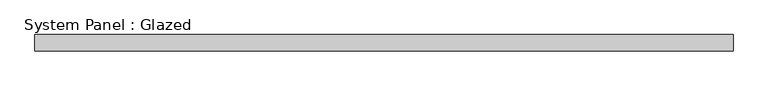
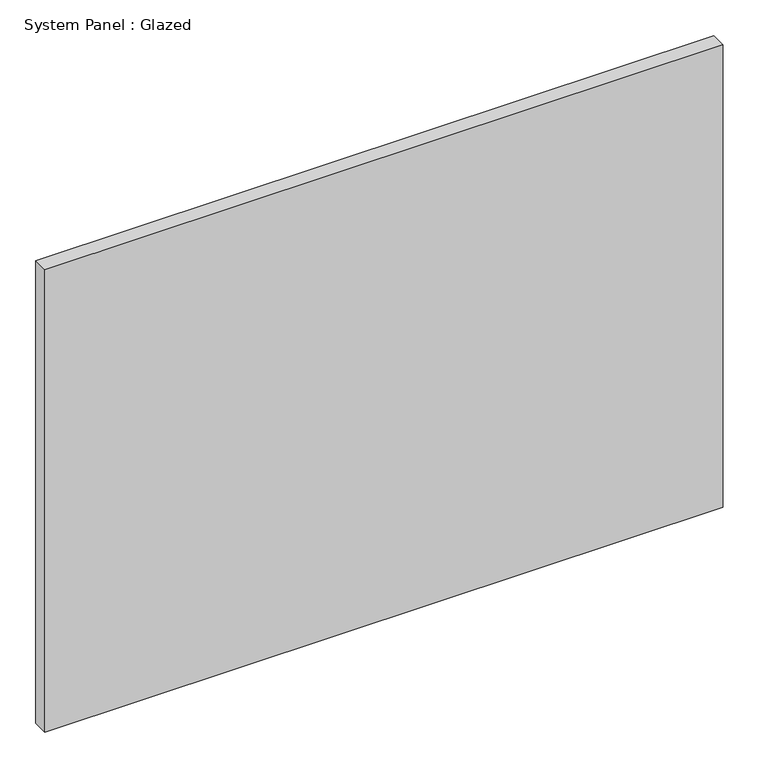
"""IFC4 building model written with IfcOpenShell, lengths in millimetres: plate geometry, System Panel : Glazed."""

from ifc_helpers import new_model, si_unit, origin, origin_with_axes, place, context, project, spatial, polyline, outline, extrude, source, transform, mapped, element, save


def system_panel_glazed_bdec29fe(model_context):
    return source(origin(), model_context, "Body", "SweptSolid", [
        extrude(outline(polyline([(546.1, 19.05), (-546.1, 19.05), (-546.1, 44.45), (546.1, 44.45), (546.1, 19.05)])), origin_with_axes(), (0.0, 0.0, 1.0), 787.4),
    ])


if __name__ == "__main__":
    model = new_model("IFC4")
    model_context = context("Model", 3, world=origin())
    ifc_project = project(units=[si_unit("LENGTHUNIT", "METRE", prefix="MILLI")], contexts=[model_context])
    site = spatial("IfcSite", under=ifc_project)
    building = spatial("IfcBuilding", under=site)
    placement = place(None, origin())
    system_panel_glazed_shape = system_panel_glazed_bdec29fe(model_context)
    element("IfcPlate", 1, ObjectType="System Panel : Glazed", at=placement, inside=building, context=model_context, shape_type="MappedRepresentation", body=[
        mapped(system_panel_glazed_shape, transform((0.0, 0.0, 0.0), x_axis=(1.0, 0.0, 0.0), y_axis=(0.0, 1.0, 0.0), z_axis=(0.0, 0.0, 1.0))),
    ])
    save(model, "model.ifc")
